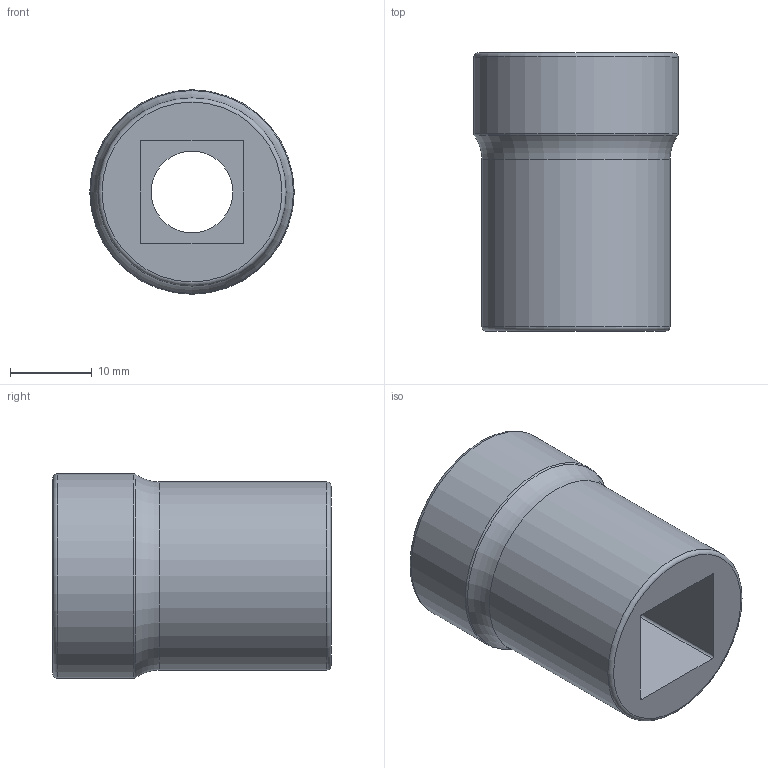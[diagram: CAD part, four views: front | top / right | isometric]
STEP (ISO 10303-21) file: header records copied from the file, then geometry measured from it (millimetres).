
FILE_DESCRIPTION(/* description */ (''),/* implementation_level */ '2;1');
FILE_NAME(/* name */ 'F:\呼び18.stp',/* time_stamp */ '2014-05-17T10:34:26+09:00',/* author */ ('unitec'),/* organization */ (''),/* preprocessor_version */ 'ST-DEVELOPER v15.2',/* originating_system */ 'Autodesk Inventor 2014',/* authorisation */ '');
FILE_SCHEMA (('AUTOMOTIVE_DESIGN { 1 0 10303 214 3 1 1 }'));
Length unit declared in the file: millimetre
Products named in the file (1): 呼び18
Bounding box: 25 x 34 x 25 mm (x, y, z)
Volume: 8920 mm3; surface area: 4890.6 mm2
Topology: 1 solids, 1 shells, 27 faces, 62 edges, 39 vertices
Faces by surface type: plane 14, cylinder 7, torus 5, cone 1
Full cylindrical faces by diameter (mm): 10 x1, 23 x1, 25 x1
Entity records: 733 total; most frequent: CARTESIAN_POINT 132, DIRECTION 122, ORIENTED_EDGE 106, EDGE_CURVE 53, AXIS2_PLACEMENT_3D 47, EDGE_LOOP 40, VERTEX_POINT 39, LINE 28
